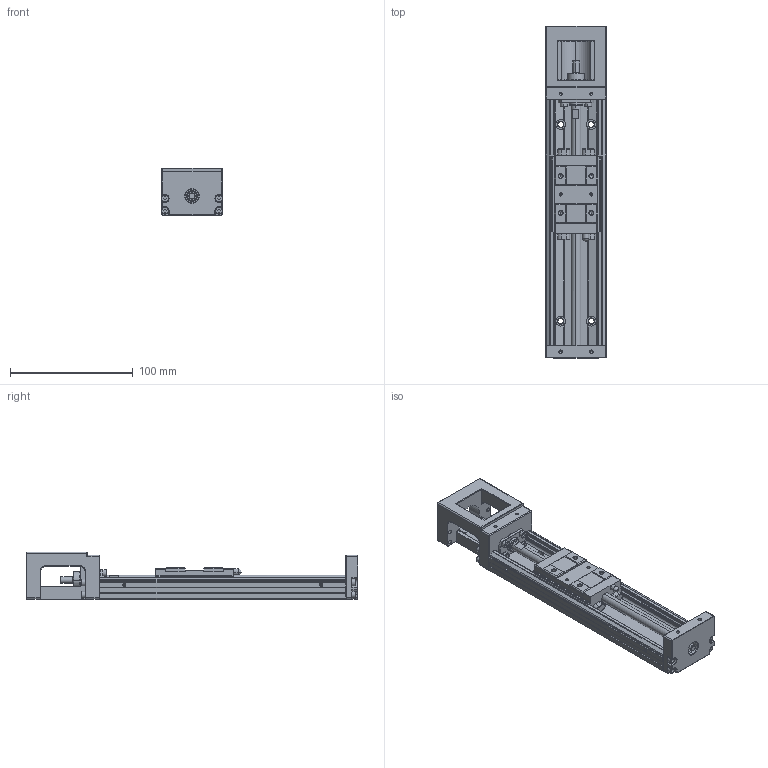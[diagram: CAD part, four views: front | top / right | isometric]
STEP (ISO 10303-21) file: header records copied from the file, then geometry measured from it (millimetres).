
FILE_DESCRIPTION (( 'STEP AP214' ), '1' );
FILE_NAME ('KS50-200A1-F0.STEP', '2020-09-07T01:06:45', ( '' ), ( '' ), 'SwSTEP 2.0', 'SolidWorks 2017', '' );
FILE_SCHEMA (( 'AUTOMOTIVE_DESIGN' ));
Length unit declared in the file: millimetre
Products named in the file (10): KS50-200A1-F0; 錨璃1; 錨璃2; KS50嘐隅釱; KS50盓傅釱; KS50M3囀鞠褒; 錨璃3; KS50佪裝蹟譫; 佪裝200; KS50菁釱200
Assembly tree (20 placements, depth 2):
  KS50-200A1-F0
    KS50菁釱200
    KS50嘐隅釱
    KS50盓傅釱
    KS50佪裝蹟譫
    KS50M3囀鞠褒  x12
    佪裝200
    錨璃2
    錨璃1
    錨璃3
Bounding box: 50 x 270 x 38.5 mm (x, y, z)
Volume: 208311.1 mm3; surface area: 79679.1 mm2
Topology: 22 solids, 24 shells, 1011 faces, 2420 edges, 1452 vertices
Faces by surface type: plane 352, cylinder 322, cone 260, torus 75, sphere 2
Entity records: 29980 total; most frequent: DIRECTION 4224, CARTESIAN_POINT 4170, ORIENTED_EDGE 3788, EDGE_CURVE 1894, AXIS2_PLACEMENT_3D 1582, VERTEX_POINT 1164, VECTOR 1060, LINE 1060
